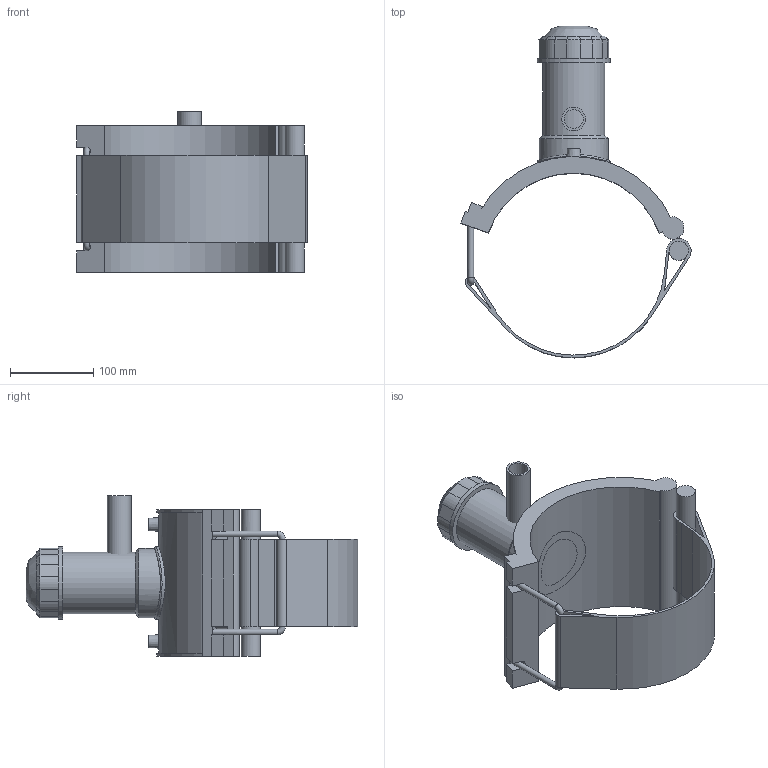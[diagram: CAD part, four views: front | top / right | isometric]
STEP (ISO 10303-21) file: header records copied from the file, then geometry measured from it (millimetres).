
FILE_DESCRIPTION(/* description */ ('PLASSON TAPPING SADDLE 8''''IPS x 1''''CTS'),/* implementation_level */ '2;1');
FILE_NAME(/* name */ 'C:\Dropbox\KIMPROJECTS-Inventor 2019\99-16-3568-Processing Inch\ASTM ElectroFusion 2021\5963BBP_5963BUP\5963BUP3080010.ipt.stp',/* time_stamp */ '2021-08-30T09:58:01+03:00',/* author */ ('KIM'),/* organization */ (''),/* preprocessor_version */ 'ST-DEVELOPER v17.2',/* originating_system */ 'Autodesk Inventor 2019',/* authorisation */ '');
FILE_SCHEMA (('AUTOMOTIVE_DESIGN { 1 0 10303 214 3 1 1 }'));
Length unit declared in the file: inch
Products named in the file (1): 5963BUP3080010
Bounding box: 276.84 x 399.02 x 192.91 mm (x, y, z)
Volume: 1812824.9 mm3; surface area: 361216.6 mm2
Topology: 3 solids, 3 shells, 124 faces, 315 edges, 205 vertices
Faces by surface type: plane 69, cylinder 40, cone 11, torus 2, bspline 2
Full cylindrical faces by diameter (mm): 4 x2, 6.998 x2, 10 x2, 22.76 x1, 23.048 x1, 28.45 x1, 61.236 x1, 74.358 x1, 83.106 x1, 87.48 x2
Entity records: 4260 total; most frequent: CARTESIAN_POINT 1120, DIRECTION 663, ORIENTED_EDGE 632, EDGE_CURVE 316, AXIS2_PLACEMENT_3D 241, VERTEX_POINT 205, LINE 181, VECTOR 181
